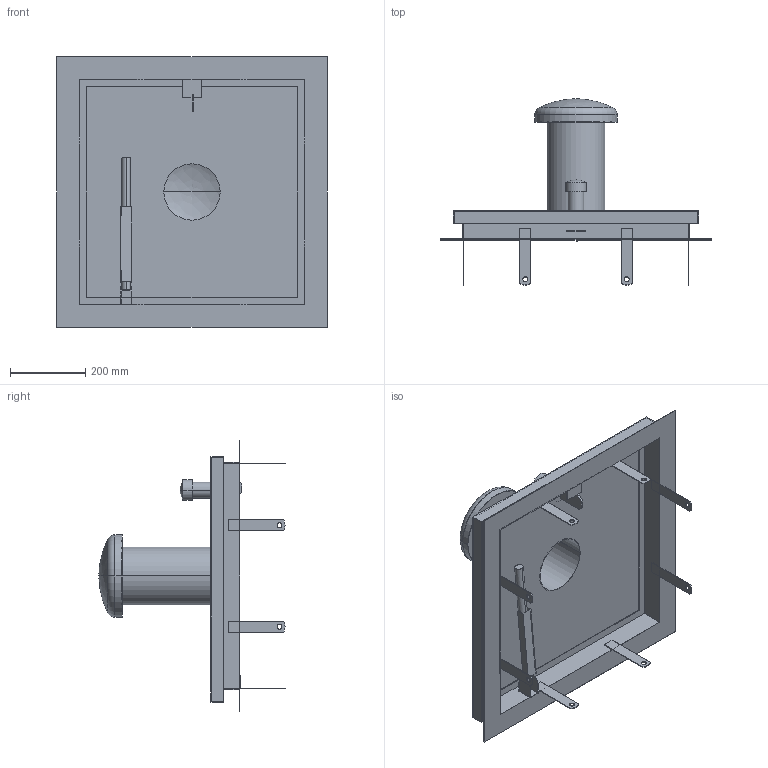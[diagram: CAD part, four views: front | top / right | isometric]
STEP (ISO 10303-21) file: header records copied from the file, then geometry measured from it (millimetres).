
FILE_DESCRIPTION((''),'2;1');
FILE_NAME('52335825','2024-12-19T07:13:10',('wep'),('HUBER SE'),'CREO PARAMETRIC BY PTC INC, 2022162','CREO PARAMETRIC BY PTC INC, 2022162','');
FILE_SCHEMA(('AUTOMOTIVE_DESIGN { 1 0 10303 214 1 1 1 1 }'));
Length unit declared in the file: millimetre
Products named in the file (1): 52335825
Bounding box: 720 x 495 x 720 mm (x, y, z)
Volume: 2465522.2 mm3; surface area: 2215240.9 mm2
Topology: 4 solids, 4 shells, 746 faces, 2024 edges, 1337 vertices
Faces by surface type: plane 418, extrusion 275, cylinder 43, torus 4, bspline 4, sphere 2
Entity records: 25278 total; most frequent: CARTESIAN_POINT 6784, ORIENTED_EDGE 4036, DIRECTION 2777, EDGE_CURVE 2018, VECTOR 1643, LINE 1368, VERTEX_POINT 1337, B_SPLINE_CURVE_WITH_KNOTS 825
